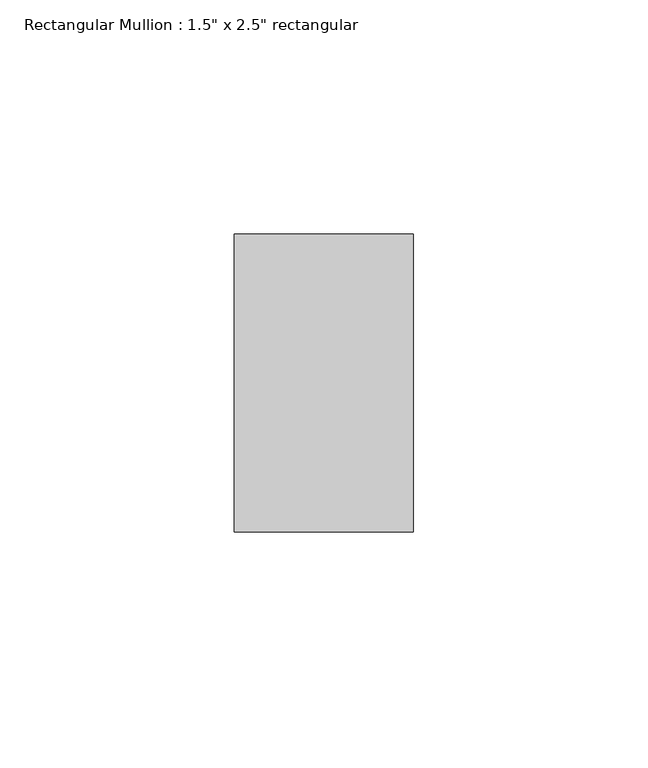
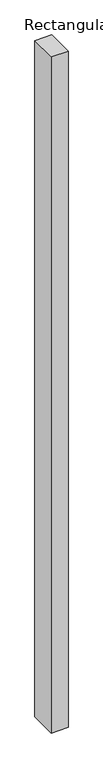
"""IFC4 building model written with IfcOpenShell, lengths in millimetres: member geometry."""

from ifc_helpers import new_model, si_unit, frame, origin, place, context, project, spatial, polyline, outline, extrude, source, transform, mapped, element, save


def member_d2efc580(model_context):
    return source(origin(), model_context, "Body", "SweptSolid", [
        extrude(outline(polyline([(19.05, 31.75), (19.05, -31.75), (-19.05, -31.75), (-19.05, 31.75), (19.05, 31.75)])), frame((0.0, 0.0, -1613.6847358), z_axis=(0.0, 0.0, 1.0), x_axis=(1.0, 0.0, 0.0)), (0.0, 0.0, 1.0), 1613.6847358),
    ])


if __name__ == "__main__":
    model = new_model("IFC4")
    model_context = context("Model", 3, world=origin())
    ifc_project = project(units=[si_unit("LENGTHUNIT", "METRE", prefix="MILLI")], contexts=[model_context])
    site = spatial("IfcSite", under=ifc_project)
    building = spatial("IfcBuilding", under=site)
    placement = place(None, origin())
    member_shape = member_d2efc580(model_context)
    element("IfcMember", 1, ObjectType="Rectangular Mullion : 1.5\" x 2.5\" rectangular", at=placement, inside=building, context=model_context, shape_type="MappedRepresentation", body=[
        mapped(member_shape, transform((0.0, 0.0, 0.0), x_axis=(1.0, 0.0, 0.0), y_axis=(0.0, 1.0, 0.0), z_axis=(0.0, 0.0, 1.0))),
    ])
    save(model, "model.ifc")
